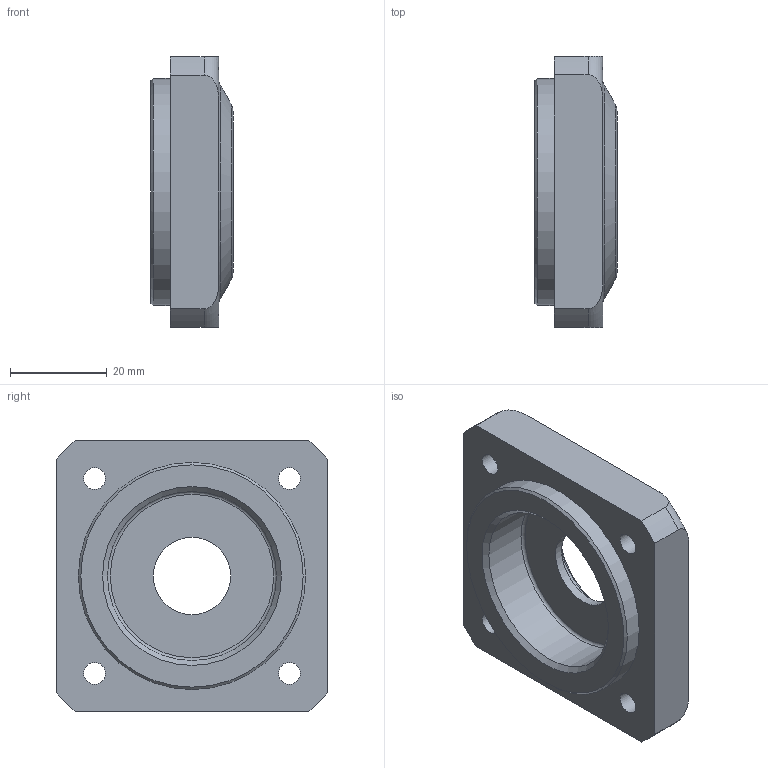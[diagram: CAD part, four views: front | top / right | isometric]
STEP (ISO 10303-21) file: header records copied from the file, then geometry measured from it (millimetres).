
FILE_DESCRIPTION(/* description */ (''),/* implementation_level */ '2;1');
FILE_NAME(/* name */ '',/* time_stamp */ '2025-05-27T17:26:50+09:00',/* author */ ('jhkim'),/* organization */ (''),/* preprocessor_version */ 'ST-DEVELOPER v20.1',/* originating_system */ 'Autodesk Inventor 2026',/* authorisation */ '');
FILE_SCHEMA (('AUTOMOTIVE_DESIGN { 1 0 10303 214 3 1 1 }'));
Length unit declared in the file: millimetre
Products named in the file (1): 커버
Bounding box: 17 x 56 x 56 mm (x, y, z)
Volume: 27481.1 mm3; surface area: 10715 mm2
Topology: 1 solids, 1 shells, 41 faces, 90 edges, 59 vertices
Faces by surface type: cylinder 16, plane 14, torus 7, cone 4
Full cylindrical faces by diameter (mm): 4.5 x4, 8 x4, 16 x1, 25 x1, 35 x1, 47 x1
Entity records: 1285 total; most frequent: CARTESIAN_POINT 279, DIRECTION 216, ORIENTED_EDGE 180, AXIS2_PLACEMENT_3D 92, EDGE_CURVE 90, EDGE_LOOP 59, VERTEX_POINT 59, CIRCLE 50
